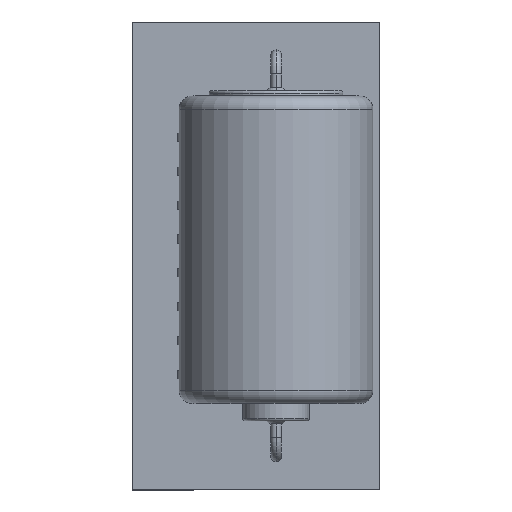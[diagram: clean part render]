
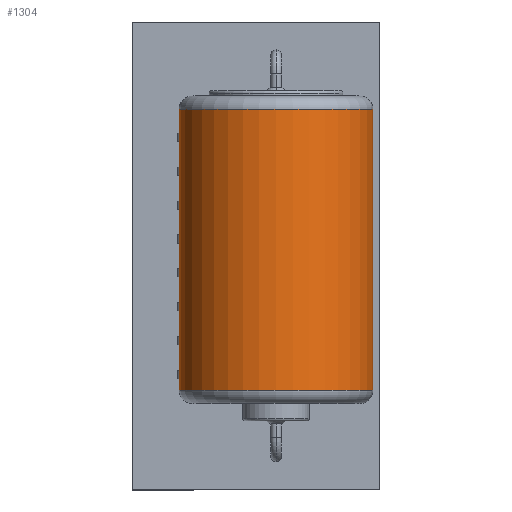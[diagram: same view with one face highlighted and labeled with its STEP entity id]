
A CAD part, top view. The second image highlights one B-rep face of the part: STEP entity #1304.
In plain terms, the highlighted cylindrical face has radius 7.25 mm (diameter 14.5 mm), a partial arc.
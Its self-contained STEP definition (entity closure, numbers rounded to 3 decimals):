
#409 = VECTOR ( 'NONE', #3452, 1000. ) ;
#1206 = CARTESIAN_POINT ( 'NONE',  ( 1.5, -10.05, 77.8 ) ) ;
#1236 = AXIS2_PLACEMENT_3D ( 'NONE', #17301, #13098, #5049 ) ;
#1304 = ADVANCED_FACE ( 'NONE', ( #11535 ), #5001, .T. ) ;
#1825 = ORIENTED_EDGE ( 'NONE', *, *, #10672, .T. ) ;
#2834 = VERTEX_POINT ( 'NONE', #14635 ) ;
#3452 = DIRECTION ( 'NONE',  ( 0., -1., 0. ) ) ;
#4564 = CARTESIAN_POINT ( 'NONE',  ( -5.75, -10.05, 77.8 ) ) ;
#4663 = ORIENTED_EDGE ( 'NONE', *, *, #7525, .F. ) ;
#4772 = CARTESIAN_POINT ( 'NONE',  ( 1.5, -28.164, 77.8 ) ) ;
#5001 = CYLINDRICAL_SURFACE ( 'NONE', #14542, 7.25 ) ;
#5049 = DIRECTION ( 'NONE',  ( 1., 0., 0. ) ) ;
#6184 = EDGE_LOOP ( 'NONE', ( #1825, #7440, #13378, #4663 ) ) ;
#7440 = ORIENTED_EDGE ( 'NONE', *, *, #11219, .T. ) ;
#7455 = CARTESIAN_POINT ( 'NONE',  ( 8.75, -28.164, 77.8 ) ) ;
#7479 = DIRECTION ( 'NONE',  ( 0., -1., 0. ) ) ;
#7515 = VERTEX_POINT ( 'NONE', #4564 ) ;
#7525 = EDGE_CURVE ( 'NONE', #10686, #11579, #7802, .T. ) ;
#7802 = LINE ( 'NONE', #7455, #14723 ) ;
#8736 = CIRCLE ( 'NONE', #1236, 7.25 ) ;
#8756 = LINE ( 'NONE', #12732, #409 ) ;
#9318 = DIRECTION ( 'NONE',  ( 1., 0., 0. ) ) ;
#10410 = AXIS2_PLACEMENT_3D ( 'NONE', #1206, #17384, #9318 ) ;
#10575 = CARTESIAN_POINT ( 'NONE',  ( 8.75, 10.95, 77.8 ) ) ;
#10672 = EDGE_CURVE ( 'NONE', #10686, #2834, #8736, .T. ) ;
#10686 = VERTEX_POINT ( 'NONE', #10575 ) ;
#11021 = CARTESIAN_POINT ( 'NONE',  ( 8.75, -10.05, 77.8 ) ) ;
#11219 = EDGE_CURVE ( 'NONE', #2834, #7515, #8756, .T. ) ;
#11535 = FACE_OUTER_BOUND ( 'NONE', #6184, .T. ) ;
#11579 = VERTEX_POINT ( 'NONE', #11021 ) ;
#12732 = CARTESIAN_POINT ( 'NONE',  ( -5.75, -28.164, 77.8 ) ) ;
#13098 = DIRECTION ( 'NONE',  ( 0., -1., 0. ) ) ;
#13378 = ORIENTED_EDGE ( 'NONE', *, *, #16257, .F. ) ;
#14542 = AXIS2_PLACEMENT_3D ( 'NONE', #4772, #7479, #15527 ) ;
#14635 = CARTESIAN_POINT ( 'NONE',  ( -5.75, 10.95, 77.8 ) ) ;
#14723 = VECTOR ( 'NONE', #16883, 1000. ) ;
#15527 = DIRECTION ( 'NONE',  ( 1., 0., 0. ) ) ;
#15799 = CIRCLE ( 'NONE', #10410, 7.25 ) ;
#16257 = EDGE_CURVE ( 'NONE', #11579, #7515, #15799, .T. ) ;
#16883 = DIRECTION ( 'NONE',  ( 0., -1., 0. ) ) ;
#17301 = CARTESIAN_POINT ( 'NONE',  ( 1.5, 10.95, 77.8 ) ) ;
#17384 = DIRECTION ( 'NONE',  ( 0., -1., 0. ) ) ;
